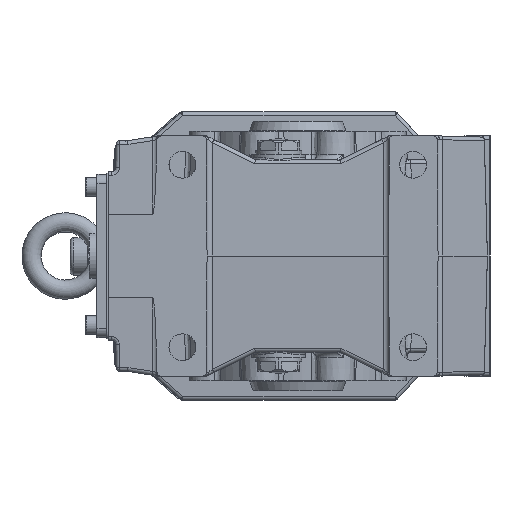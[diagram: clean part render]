
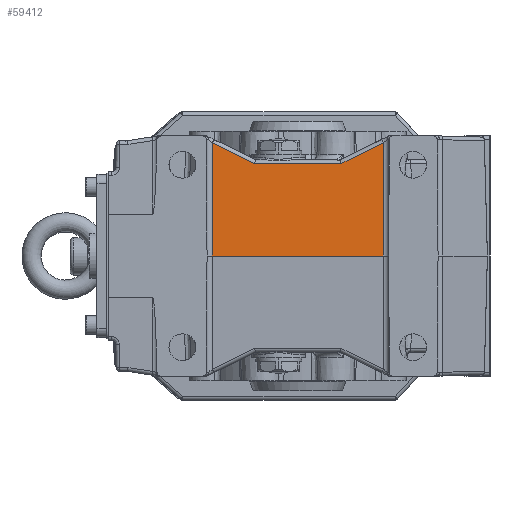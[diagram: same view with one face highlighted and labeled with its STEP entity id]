
A CAD part, left-side view. The second image highlights one B-rep face of the part: STEP entity #59412.
In plain terms, the highlighted planar face has unit normal (-1, 0, 0.026).
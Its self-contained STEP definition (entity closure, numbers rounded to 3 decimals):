
#58462=CARTESIAN_POINT('',(-88.309,-44.5,0.));
#58463=VERTEX_POINT('',#58462);
#58470=CARTESIAN_POINT('',(-88.309,44.5,0.));
#58471=VERTEX_POINT('',#58470);
#58472=CARTESIAN_POINT('',(-88.309,-44.5,0.));
#58473=DIRECTION('',(0.0,1.0,0.0));
#58474=VECTOR('',#58473,89.);
#58475=LINE('',#58472,#58474);
#58476=EDGE_CURVE('',#58471,#58463,#58475,.F.);
#59366=CARTESIAN_POINT('',(-88.309,-97.,0.017));
#59367=DIRECTION('',(-1.,0.,0.026));
#59368=DIRECTION('',(0.026,0.,1.));
#59369=AXIS2_PLACEMENT_3D('',#59366,#59367,#59368);
#59370=PLANE('',#59369);
#59371=CARTESIAN_POINT('',(-86.768,44.5,58.854));
#59372=VERTEX_POINT('',#59371);
#59373=CARTESIAN_POINT('',(-87.051,22.464,48.052));
#59374=VERTEX_POINT('',#59373);
#59375=CARTESIAN_POINT('',(-86.768,44.5,58.854));
#59376=DIRECTION('',(-0.012,-0.898,-0.44));
#59377=VECTOR('',#59376,24.543);
#59378=LINE('',#59375,#59377);
#59379=EDGE_CURVE('',#59372,#59374,#59378,.T.);
#59380=ORIENTED_EDGE('',*,*,#59379,.F.);
#59381=CARTESIAN_POINT('',(-88.309,44.5,0.));
#59382=DIRECTION('',(0.026,0.0,1.));
#59383=VECTOR('',#59382,58.875);
#59384=LINE('',#59381,#59383);
#59385=EDGE_CURVE('',#58471,#59372,#59384,.T.);
#59386=ORIENTED_EDGE('',*,*,#59385,.F.);
#59387=ORIENTED_EDGE('',*,*,#58476,.T.);
#59388=CARTESIAN_POINT('',(-86.768,-44.5,58.854));
#59389=VERTEX_POINT('',#59388);
#59390=CARTESIAN_POINT('',(-86.768,-44.5,58.854));
#59391=DIRECTION('',(-0.026,0.,-1.));
#59392=VECTOR('',#59391,58.875);
#59393=LINE('',#59390,#59392);
#59394=EDGE_CURVE('',#59389,#58463,#59393,.T.);
#59395=ORIENTED_EDGE('',*,*,#59394,.F.);
#59396=CARTESIAN_POINT('',(-87.051,-22.464,48.052));
#59397=VERTEX_POINT('',#59396);
#59398=CARTESIAN_POINT('',(-87.051,-22.464,48.052));
#59399=DIRECTION('',(0.012,-0.898,0.44));
#59400=VECTOR('',#59399,24.543);
#59401=LINE('',#59398,#59400);
#59402=EDGE_CURVE('',#59397,#59389,#59401,.T.);
#59403=ORIENTED_EDGE('',*,*,#59402,.F.);
#59404=CARTESIAN_POINT('',(-87.051,22.464,48.052));
#59405=DIRECTION('',(0.0,-1.0,0.0));
#59406=VECTOR('',#59405,44.928);
#59407=LINE('',#59404,#59406);
#59408=EDGE_CURVE('',#59374,#59397,#59407,.T.);
#59409=ORIENTED_EDGE('',*,*,#59408,.F.);
#59410=EDGE_LOOP('',(#59380,#59386,#59387,#59395,#59403,#59409));
#59411=FACE_OUTER_BOUND('',#59410,.T.);
#59412=ADVANCED_FACE('',(#59411),#59370,.T.);
